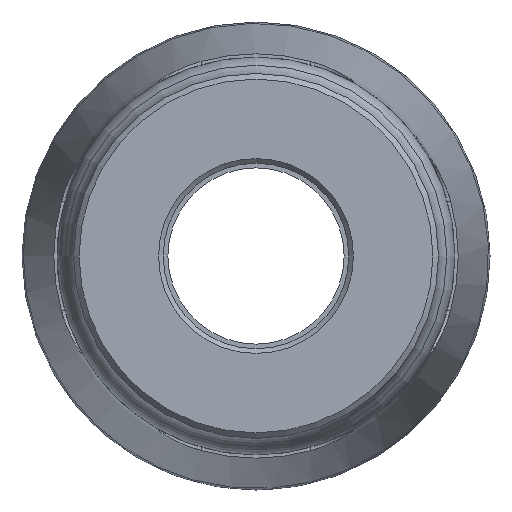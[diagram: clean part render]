
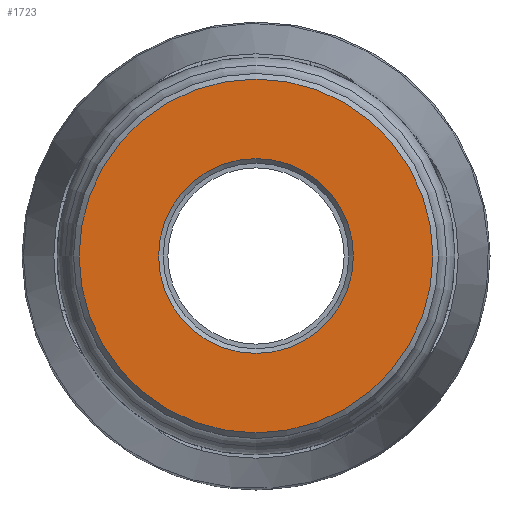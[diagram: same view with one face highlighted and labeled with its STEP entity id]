
A CAD part, left-side view. The second image highlights one B-rep face of the part: STEP entity #1723.
In plain terms, the highlighted planar face has unit normal (-1, 0, 0).
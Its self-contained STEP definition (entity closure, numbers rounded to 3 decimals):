
#28=FACE_BOUND('',#400,.T.);
#211=PLANE('',#1880);
#289=FACE_OUTER_BOUND('',#399,.T.);
#399=EDGE_LOOP('',(#1218));
#400=EDGE_LOOP('',(#1219));
#541=CIRCLE('',#1879,9.786);
#542=CIRCLE('',#1881,17.771);
#727=VERTEX_POINT('',#2982);
#728=VERTEX_POINT('',#2985);
#909=EDGE_CURVE('',#727,#727,#541,.T.);
#910=EDGE_CURVE('',#728,#728,#542,.T.);
#1218=ORIENTED_EDGE('',*,*,#910,.F.);
#1219=ORIENTED_EDGE('',*,*,#909,.F.);
#1723=ADVANCED_FACE('',(#289,#28),#211,.T.);
#1879=AXIS2_PLACEMENT_3D('',#2983,#2171,#2172);
#1880=AXIS2_PLACEMENT_3D('',#2984,#2173,#2174);
#1881=AXIS2_PLACEMENT_3D('',#2986,#2175,#2176);
#2171=DIRECTION('center_axis',(-1.,0.,0.));
#2172=DIRECTION('ref_axis',(0.,-1.,0.));
#2173=DIRECTION('center_axis',(-1.,0.,0.));
#2174=DIRECTION('ref_axis',(0.,0.,1.));
#2175=DIRECTION('center_axis',(1.,0.,0.));
#2176=DIRECTION('ref_axis',(0.,-1.,0.));
#2982=CARTESIAN_POINT('',(0.,9.786,0.));
#2983=CARTESIAN_POINT('Origin',(0.,0.,0.));
#2984=CARTESIAN_POINT('Origin',(0.,18.33,0.));
#2985=CARTESIAN_POINT('',(0.,17.771,0.));
#2986=CARTESIAN_POINT('Origin',(0.,0.,0.));
